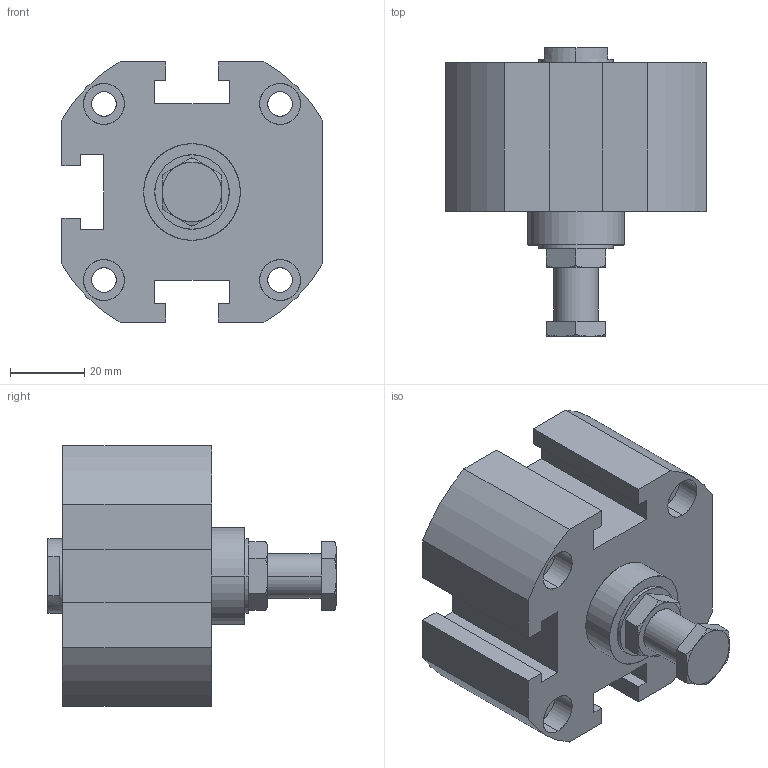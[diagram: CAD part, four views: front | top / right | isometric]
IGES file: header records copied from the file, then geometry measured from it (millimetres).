
Start section: SolidWorks IGES file using analytic representation for surfaces
Global section: file name: C:\Users\Toshiba\Desktop\XCA2-50-10.IGS; native system: SolidWorks 2014; preprocessor: SolidWorks 2014; author: Toshiba; date: 160524.103126; units: millimetre
Bounding box: 70 x 77.5 x 70 mm (x, y, z)
Surface area: 30428.2 mm2 (no closed solid volume)
Topology: 0 solids, 0 shells, 150 faces, 2702 edges, 2696 vertices
Faces by surface type: bspline 80, revolution 70
